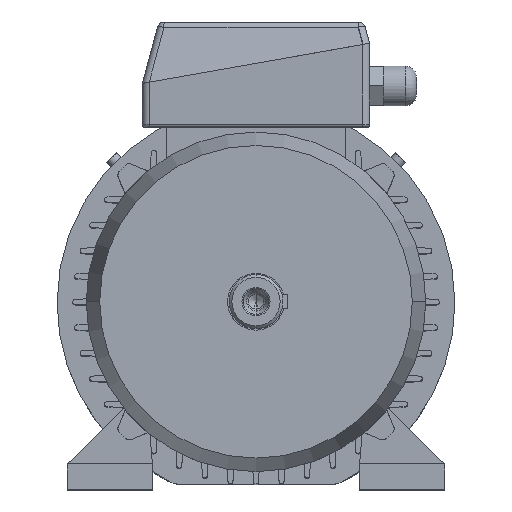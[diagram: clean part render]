
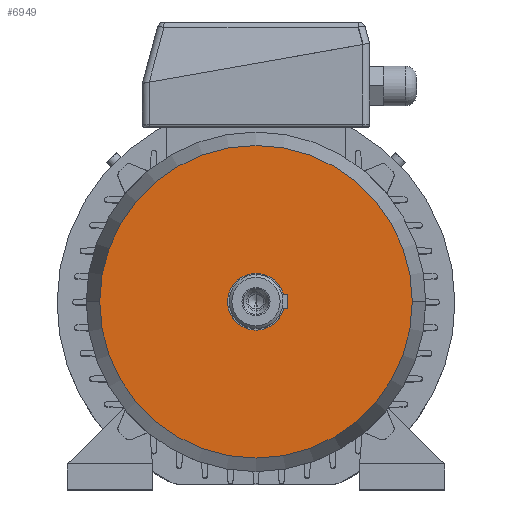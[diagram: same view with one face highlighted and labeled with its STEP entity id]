
A CAD part, top view. The second image highlights one B-rep face of the part: STEP entity #6949.
In plain terms, the highlighted planar face has unit normal (0, 0, 1).
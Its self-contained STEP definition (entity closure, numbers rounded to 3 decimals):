
#5556 = VERTEX_POINT ( 'NONE', #10158 ) ;
#5809 = VERTEX_POINT ( 'NONE', #10300 ) ;
#6060 = EDGE_CURVE ( 'NONE', #5809, #5556, #10537, .T. ) ;
#6257 = EDGE_CURVE ( 'NONE', #5556, #5809, #10707, .T. ) ;
#6949 = ADVANCED_FACE ( 'NONE', ( #13229 ), #13230, .T. ) ;
#9602 = ORIENTED_EDGE ( 'NONE', *, *, #6257, .F. ) ;
#10158 = CARTESIAN_POINT ( 'NONE',  ( 110., 0., 47. ) ) ;
#10173 = ORIENTED_EDGE ( 'NONE', *, *, #6060, .F. ) ;
#10300 = CARTESIAN_POINT ( 'NONE',  ( -110., 0., 47. ) ) ;
#10537 = CIRCLE ( 'NONE', #10538, 110. ) ;
#10538 = AXIS2_PLACEMENT_3D ( 'NONE', #10539, #10548, #10549 ) ;
#10539 = CARTESIAN_POINT ( 'NONE',  ( 0., 0., 47. ) ) ;
#10548 = DIRECTION ( 'NONE',  ( 0., 0., -1. ) ) ;
#10549 = DIRECTION ( 'NONE',  ( -1., 0., 0. ) ) ;
#10707 = CIRCLE ( 'NONE', #10708, 110. ) ;
#10708 = AXIS2_PLACEMENT_3D ( 'NONE', #10709, #10710, #10716 ) ;
#10709 = CARTESIAN_POINT ( 'NONE',  ( 0., 0., 47. ) ) ;
#10710 = DIRECTION ( 'NONE',  ( 0., 0., -1. ) ) ;
#10716 = DIRECTION ( 'NONE',  ( -1., 0., 0. ) ) ;
#13229 = FACE_OUTER_BOUND ( 'NONE', #13440, .T. ) ;
#13230 = PLANE ( 'NONE',  #13231 ) ;
#13231 = AXIS2_PLACEMENT_3D ( 'NONE', #13232, #13241, #13242 ) ;
#13232 = CARTESIAN_POINT ( 'NONE',  ( 0., 110., 47. ) ) ;
#13241 = DIRECTION ( 'NONE',  ( 0., 0., 1. ) ) ;
#13242 = DIRECTION ( 'NONE',  ( 1., 0., 0. ) ) ;
#13440 = EDGE_LOOP ( 'NONE', ( #10173, #9602 ) ) ;
